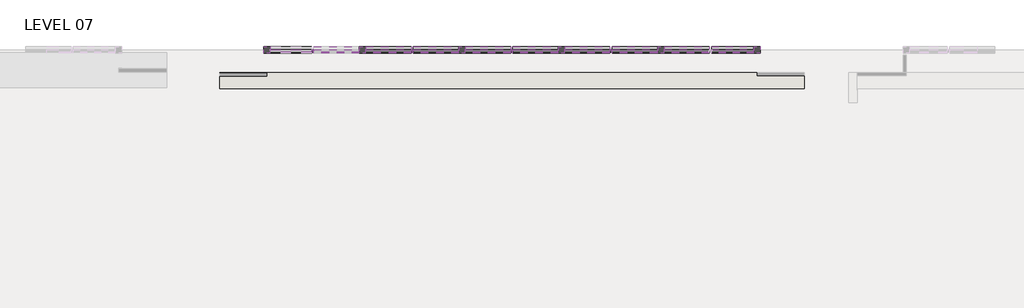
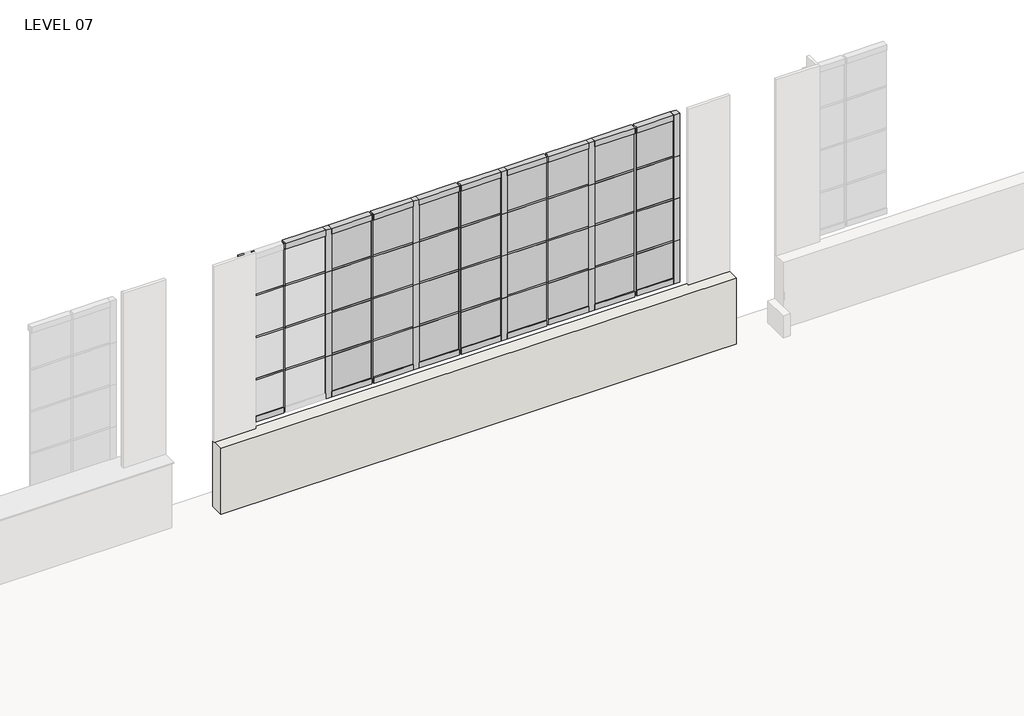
# One storey, part 10 of 15: 88 members, 32 plates, 2 walls.
"""IFC4 building model written with IfcOpenShell, lengths in millimetres."""

from ifc_helpers import new_model, si_unit, frame, origin, place, context, project, spatial, polyline, outline, extrude, transform, mapped, element, save
from components import member_605ff978, member_d9fe2114, member_fd592df6, member_78bb2ef1, member_40290cd5, member_ba51e770, member_6e5aab5d, member_bacafba3, member_a6d649dc, system_panel_glazed_84a10c8e, system_panel_glazed_44697018, system_panel_glazed_99b9b709, system_panel_glazed_bf1454fd

model = new_model("IFC4")

# Units and contexts
model_context = context("Model", 3, world=origin())
ifc_project = project(units=[si_unit("LENGTHUNIT", "METRE", prefix="MILLI")], contexts=[model_context])

# Site, building, storey
site = spatial("IfcSite", under=ifc_project)
building = spatial("IfcBuilding", under=site)
storey = spatial("IfcBuildingStorey", under=building, Name="LEVEL 07", Elevation=20802.6)

# Members
placement = place(None, origin())
member_shape = member_605ff978(model_context)
element("IfcMember", 1, ObjectType="Rectangular Mullion : 1\" x 1\" - Butt Joint", at=placement, inside=storey, context=model_context, shape_type="MappedRepresentation", body=[
    mapped(member_shape, transform((-21405.0571519, -412.75, 23342.6), x_axis=(0.0, 0.0, 1.0), y_axis=(0.0, -1.0, 0.0), z_axis=(1.0, 0.0, 0.0))),
])
element("IfcMember", 2, ObjectType="Rectangular Mullion : 1\" x 1\" - Butt Joint", at=placement, inside=storey, context=model_context, shape_type="MappedRepresentation", body=[
    mapped(member_shape, transform((-21405.0571519, -412.75, 22758.4), x_axis=(0.0, 0.0, 1.0), y_axis=(0.0, -1.0, 0.0), z_axis=(1.0, 0.0, 0.0))),
])
element("IfcMember", 3, ObjectType="Rectangular Mullion : 1\" x 1\" - Butt Joint", at=placement, inside=storey, context=model_context, shape_type="MappedRepresentation", body=[
    mapped(member_shape, transform((-21405.0571519, -412.75, 22174.2), x_axis=(0.0, 0.0, 1.0), y_axis=(0.0, -1.0, 0.0), z_axis=(1.0, 0.0, 0.0))),
])
member_2_shape = member_d9fe2114(model_context)
element("IfcMember", 4, ObjectType="Rectangular Mullion : 1\" x 1\" - Butt Joint", at=placement, inside=storey, context=model_context, shape_type="MappedRepresentation", body=[
    mapped(member_2_shape, transform((-20856.4171519, -412.75, 23342.6), x_axis=(0.0, 0.0, 1.0), y_axis=(0.0, -1.0, 0.0), z_axis=(1.0, 0.0, 0.0))),
])
element("IfcMember", 5, ObjectType="Rectangular Mullion : 1\" x 1\" - Butt Joint", at=placement, inside=storey, context=model_context, shape_type="MappedRepresentation", body=[
    mapped(member_2_shape, transform((-19708.3371519, -412.75, 23342.6), x_axis=(0.0, 0.0, 1.0), y_axis=(0.0, -1.0, 0.0), z_axis=(1.0, 0.0, 0.0))),
])
element("IfcMember", 6, ObjectType="Rectangular Mullion : 1\" x 1\" - Butt Joint", at=placement, inside=storey, context=model_context, shape_type="MappedRepresentation", body=[
    mapped(member_2_shape, transform((-18560.2571519, -412.75, 23342.6), x_axis=(0.0, 0.0, 1.0), y_axis=(0.0, -1.0, 0.0), z_axis=(1.0, 0.0, 0.0))),
])
element("IfcMember", 7, ObjectType="Rectangular Mullion : 1\" x 1\" - Butt Joint", at=placement, inside=storey, context=model_context, shape_type="MappedRepresentation", body=[
    mapped(member_2_shape, transform((-17412.1771519, -412.75, 23342.6), x_axis=(0.0, 0.0, 1.0), y_axis=(0.0, -1.0, 0.0), z_axis=(1.0, 0.0, 0.0))),
])
element("IfcMember", 8, ObjectType="Rectangular Mullion : 1\" x 1\" - Butt Joint", at=placement, inside=storey, context=model_context, shape_type="MappedRepresentation", body=[
    mapped(member_2_shape, transform((-20256.9771519, -412.75, 23342.6), x_axis=(0.0, 0.0, 1.0), y_axis=(0.0, -1.0, 0.0), z_axis=(1.0, 0.0, 0.0))),
])
element("IfcMember", 9, ObjectType="Rectangular Mullion : 1\" x 1\" - Butt Joint", at=placement, inside=storey, context=model_context, shape_type="MappedRepresentation", body=[
    mapped(member_2_shape, transform((-19108.8971519, -412.75, 23342.6), x_axis=(0.0, 0.0, 1.0), y_axis=(0.0, -1.0, 0.0), z_axis=(1.0, 0.0, 0.0))),
])
element("IfcMember", 10, ObjectType="Rectangular Mullion : 1\" x 1\" - Butt Joint", at=placement, inside=storey, context=model_context, shape_type="MappedRepresentation", body=[
    mapped(member_2_shape, transform((-17960.8171519, -412.75, 23342.6), x_axis=(0.0, 0.0, 1.0), y_axis=(0.0, -1.0, 0.0), z_axis=(1.0, 0.0, 0.0))),
])
element("IfcMember", 11, ObjectType="Rectangular Mullion : 1\" x 1\" - Butt Joint", at=placement, inside=storey, context=model_context, shape_type="MappedRepresentation", body=[
    mapped(member_2_shape, transform((-16812.7371519, -412.75, 23342.6), x_axis=(0.0, 0.0, 1.0), y_axis=(0.0, -1.0, 0.0), z_axis=(1.0, 0.0, 0.0))),
])
element("IfcMember", 12, ObjectType="Rectangular Mullion : 1\" x 1\" - Butt Joint", at=placement, inside=storey, context=model_context, shape_type="MappedRepresentation", body=[
    mapped(member_2_shape, transform((-20856.4171519, -412.75, 22758.4), x_axis=(0.0, 0.0, 1.0), y_axis=(0.0, -1.0, 0.0), z_axis=(1.0, 0.0, 0.0))),
])
element("IfcMember", 13, ObjectType="Rectangular Mullion : 1\" x 1\" - Butt Joint", at=placement, inside=storey, context=model_context, shape_type="MappedRepresentation", body=[
    mapped(member_2_shape, transform((-19708.3371519, -412.75, 22758.4), x_axis=(0.0, 0.0, 1.0), y_axis=(0.0, -1.0, 0.0), z_axis=(1.0, 0.0, 0.0))),
])
element("IfcMember", 14, ObjectType="Rectangular Mullion : 1\" x 1\" - Butt Joint", at=placement, inside=storey, context=model_context, shape_type="MappedRepresentation", body=[
    mapped(member_2_shape, transform((-18560.2571519, -412.75, 22758.4), x_axis=(0.0, 0.0, 1.0), y_axis=(0.0, -1.0, 0.0), z_axis=(1.0, 0.0, 0.0))),
])
element("IfcMember", 15, ObjectType="Rectangular Mullion : 1\" x 1\" - Butt Joint", at=placement, inside=storey, context=model_context, shape_type="MappedRepresentation", body=[
    mapped(member_2_shape, transform((-17412.1771519, -412.75, 22758.4), x_axis=(0.0, 0.0, 1.0), y_axis=(0.0, -1.0, 0.0), z_axis=(1.0, 0.0, 0.0))),
])
element("IfcMember", 16, ObjectType="Rectangular Mullion : 1\" x 1\" - Butt Joint", at=placement, inside=storey, context=model_context, shape_type="MappedRepresentation", body=[
    mapped(member_2_shape, transform((-20256.9771519, -412.75, 22758.4), x_axis=(0.0, 0.0, 1.0), y_axis=(0.0, -1.0, 0.0), z_axis=(1.0, 0.0, 0.0))),
])
element("IfcMember", 17, ObjectType="Rectangular Mullion : 1\" x 1\" - Butt Joint", at=placement, inside=storey, context=model_context, shape_type="MappedRepresentation", body=[
    mapped(member_2_shape, transform((-19108.8971519, -412.75, 22758.4), x_axis=(0.0, 0.0, 1.0), y_axis=(0.0, -1.0, 0.0), z_axis=(1.0, 0.0, 0.0))),
])
element("IfcMember", 18, ObjectType="Rectangular Mullion : 1\" x 1\" - Butt Joint", at=placement, inside=storey, context=model_context, shape_type="MappedRepresentation", body=[
    mapped(member_2_shape, transform((-17960.8171519, -412.75, 22758.4), x_axis=(0.0, 0.0, 1.0), y_axis=(0.0, -1.0, 0.0), z_axis=(1.0, 0.0, 0.0))),
])
element("IfcMember", 19, ObjectType="Rectangular Mullion : 1\" x 1\" - Butt Joint", at=placement, inside=storey, context=model_context, shape_type="MappedRepresentation", body=[
    mapped(member_2_shape, transform((-16812.7371519, -412.75, 22758.4), x_axis=(0.0, 0.0, 1.0), y_axis=(0.0, -1.0, 0.0), z_axis=(1.0, 0.0, 0.0))),
])
element("IfcMember", 20, ObjectType="Rectangular Mullion : 1\" x 1\" - Butt Joint", at=placement, inside=storey, context=model_context, shape_type="MappedRepresentation", body=[
    mapped(member_2_shape, transform((-20856.4171519, -412.75, 22174.2), x_axis=(0.0, 0.0, 1.0), y_axis=(0.0, -1.0, 0.0), z_axis=(1.0, 0.0, 0.0))),
])
element("IfcMember", 21, ObjectType="Rectangular Mullion : 1\" x 1\" - Butt Joint", at=placement, inside=storey, context=model_context, shape_type="MappedRepresentation", body=[
    mapped(member_2_shape, transform((-19708.3371519, -412.75, 22174.2), x_axis=(0.0, 0.0, 1.0), y_axis=(0.0, -1.0, 0.0), z_axis=(1.0, 0.0, 0.0))),
])
element("IfcMember", 22, ObjectType="Rectangular Mullion : 1\" x 1\" - Butt Joint", at=placement, inside=storey, context=model_context, shape_type="MappedRepresentation", body=[
    mapped(member_2_shape, transform((-18560.2571519, -412.75, 22174.2), x_axis=(0.0, 0.0, 1.0), y_axis=(0.0, -1.0, 0.0), z_axis=(1.0, 0.0, 0.0))),
])
element("IfcMember", 23, ObjectType="Rectangular Mullion : 1\" x 1\" - Butt Joint", at=placement, inside=storey, context=model_context, shape_type="MappedRepresentation", body=[
    mapped(member_2_shape, transform((-17412.1771519, -412.75, 22174.2), x_axis=(0.0, 0.0, 1.0), y_axis=(0.0, -1.0, 0.0), z_axis=(1.0, 0.0, 0.0))),
])
element("IfcMember", 24, ObjectType="Rectangular Mullion : 1\" x 1\" - Butt Joint", at=placement, inside=storey, context=model_context, shape_type="MappedRepresentation", body=[
    mapped(member_2_shape, transform((-20256.9771519, -412.75, 22174.2), x_axis=(0.0, 0.0, 1.0), y_axis=(0.0, -1.0, 0.0), z_axis=(1.0, 0.0, 0.0))),
])
element("IfcMember", 25, ObjectType="Rectangular Mullion : 1\" x 1\" - Butt Joint", at=placement, inside=storey, context=model_context, shape_type="MappedRepresentation", body=[
    mapped(member_2_shape, transform((-19108.8971519, -412.75, 22174.2), x_axis=(0.0, 0.0, 1.0), y_axis=(0.0, -1.0, 0.0), z_axis=(1.0, 0.0, 0.0))),
])
element("IfcMember", 26, ObjectType="Rectangular Mullion : 1\" x 1\" - Butt Joint", at=placement, inside=storey, context=model_context, shape_type="MappedRepresentation", body=[
    mapped(member_2_shape, transform((-17960.8171519, -412.75, 22174.2), x_axis=(0.0, 0.0, 1.0), y_axis=(0.0, -1.0, 0.0), z_axis=(1.0, 0.0, 0.0))),
])
element("IfcMember", 27, ObjectType="Rectangular Mullion : 1\" x 1\" - Butt Joint", at=placement, inside=storey, context=model_context, shape_type="MappedRepresentation", body=[
    mapped(member_2_shape, transform((-16812.7371519, -412.75, 22174.2), x_axis=(0.0, 0.0, 1.0), y_axis=(0.0, -1.0, 0.0), z_axis=(1.0, 0.0, 0.0))),
])
member_3_shape = member_fd592df6(model_context)
element("IfcMember", 28, ObjectType="Rectangular Mullion : 1\" x 1\" - Butt Joint", at=placement, inside=storey, context=model_context, shape_type="MappedRepresentation", body=[
    mapped(member_3_shape, transform((-16302.1971519, -412.75, 23342.6), x_axis=(0.0, 0.0, 1.0), y_axis=(0.0, -1.0, 0.0), z_axis=(1.0, 0.0, 0.0))),
])
element("IfcMember", 29, ObjectType="Rectangular Mullion : 1\" x 1\" - Butt Joint", at=placement, inside=storey, context=model_context, shape_type="MappedRepresentation", body=[
    mapped(member_3_shape, transform((-16302.1971519, -412.75, 22758.4), x_axis=(0.0, 0.0, 1.0), y_axis=(0.0, -1.0, 0.0), z_axis=(1.0, 0.0, 0.0))),
])
element("IfcMember", 30, ObjectType="Rectangular Mullion : 1\" x 1\" - Butt Joint", at=placement, inside=storey, context=model_context, shape_type="MappedRepresentation", body=[
    mapped(member_3_shape, transform((-16302.1971519, -412.75, 22174.2), x_axis=(0.0, 0.0, 1.0), y_axis=(0.0, -1.0, 0.0), z_axis=(1.0, 0.0, 0.0))),
])
member_4_shape = member_78bb2ef1(model_context)
element("IfcMember", 31, ObjectType="Rectangular Mullion : 1\" x 1\" - Butt Joint", at=placement, inside=storey, context=model_context, shape_type="MappedRepresentation", body=[
    mapped(member_4_shape, transform((-17948.1171519, -412.75, 23342.6), x_axis=(1.0, 0.0, 0.0), y_axis=(0.0, -1.0, 0.0), z_axis=(0.0, 0.0, -1.0))),
])
element("IfcMember", 32, ObjectType="Rectangular Mullion : 1\" x 1\" - Butt Joint", at=placement, inside=storey, context=model_context, shape_type="MappedRepresentation", body=[
    mapped(member_4_shape, transform((-19096.1971519, -412.75, 23342.6), x_axis=(1.0, 0.0, 0.0), y_axis=(0.0, -1.0, 0.0), z_axis=(0.0, 0.0, -1.0))),
])
element("IfcMember", 33, ObjectType="Rectangular Mullion : 1\" x 1\" - Butt Joint", at=placement, inside=storey, context=model_context, shape_type="MappedRepresentation", body=[
    mapped(member_4_shape, transform((-20244.2771519, -412.75, 23342.6), x_axis=(1.0, 0.0, 0.0), y_axis=(0.0, -1.0, 0.0), z_axis=(0.0, 0.0, -1.0))),
])
element("IfcMember", 34, ObjectType="Rectangular Mullion : 1\" x 1\" - Butt Joint", at=placement, inside=storey, context=model_context, shape_type="MappedRepresentation", body=[
    mapped(member_4_shape, transform((-21392.3571519, -412.75, 23342.6), x_axis=(1.0, 0.0, 0.0), y_axis=(0.0, -1.0, 0.0), z_axis=(0.0, 0.0, -1.0))),
])
element("IfcMember", 35, ObjectType="Rectangular Mullion : 1\" x 1\" - Butt Joint", at=placement, inside=storey, context=model_context, shape_type="MappedRepresentation", body=[
    mapped(member_4_shape, transform((-17948.1171519, -412.75, 22174.2), x_axis=(1.0, 0.0, 0.0), y_axis=(0.0, -1.0, 0.0), z_axis=(0.0, 0.0, -1.0))),
])
element("IfcMember", 36, ObjectType="Rectangular Mullion : 1\" x 1\" - Butt Joint", at=placement, inside=storey, context=model_context, shape_type="MappedRepresentation", body=[
    mapped(member_4_shape, transform((-17948.1171519, -412.75, 22758.4), x_axis=(1.0, 0.0, 0.0), y_axis=(0.0, -1.0, 0.0), z_axis=(0.0, 0.0, -1.0))),
])
element("IfcMember", 37, ObjectType="Rectangular Mullion : 1\" x 1\" - Butt Joint", at=placement, inside=storey, context=model_context, shape_type="MappedRepresentation", body=[
    mapped(member_4_shape, transform((-19096.1971519, -412.75, 22174.2), x_axis=(1.0, 0.0, 0.0), y_axis=(0.0, -1.0, 0.0), z_axis=(0.0, 0.0, -1.0))),
])
element("IfcMember", 38, ObjectType="Rectangular Mullion : 1\" x 1\" - Butt Joint", at=placement, inside=storey, context=model_context, shape_type="MappedRepresentation", body=[
    mapped(member_4_shape, transform((-19096.1971519, -412.75, 22758.4), x_axis=(1.0, 0.0, 0.0), y_axis=(0.0, -1.0, 0.0), z_axis=(0.0, 0.0, -1.0))),
])
element("IfcMember", 39, ObjectType="Rectangular Mullion : 1\" x 1\" - Butt Joint", at=placement, inside=storey, context=model_context, shape_type="MappedRepresentation", body=[
    mapped(member_4_shape, transform((-20244.2771519, -412.75, 22174.2), x_axis=(1.0, 0.0, 0.0), y_axis=(0.0, -1.0, 0.0), z_axis=(0.0, 0.0, -1.0))),
])
element("IfcMember", 40, ObjectType="Rectangular Mullion : 1\" x 1\" - Butt Joint", at=placement, inside=storey, context=model_context, shape_type="MappedRepresentation", body=[
    mapped(member_4_shape, transform((-20244.2771519, -412.75, 22758.4), x_axis=(1.0, 0.0, 0.0), y_axis=(0.0, -1.0, 0.0), z_axis=(0.0, 0.0, -1.0))),
])
element("IfcMember", 41, ObjectType="Rectangular Mullion : 1\" x 1\" - Butt Joint", at=placement, inside=storey, context=model_context, shape_type="MappedRepresentation", body=[
    mapped(member_4_shape, transform((-21392.3571519, -412.75, 22174.2), x_axis=(1.0, 0.0, 0.0), y_axis=(0.0, -1.0, 0.0), z_axis=(0.0, 0.0, -1.0))),
])
element("IfcMember", 42, ObjectType="Rectangular Mullion : 1\" x 1\" - Butt Joint", at=placement, inside=storey, context=model_context, shape_type="MappedRepresentation", body=[
    mapped(member_4_shape, transform((-21392.3571519, -412.75, 22758.4), x_axis=(1.0, 0.0, 0.0), y_axis=(0.0, -1.0, 0.0), z_axis=(0.0, 0.0, -1.0))),
])
element("IfcMember", 43, ObjectType="Rectangular Mullion : 1\" x 1\" - Butt Joint", at=placement, inside=storey, context=model_context, shape_type="MappedRepresentation", body=[
    mapped(member_4_shape, transform((-17948.1171519, -412.75, 21590.0), x_axis=(1.0, 0.0, 0.0), y_axis=(0.0, -1.0, 0.0), z_axis=(0.0, 0.0, -1.0))),
])
element("IfcMember", 44, ObjectType="Rectangular Mullion : 1\" x 1\" - Butt Joint", at=placement, inside=storey, context=model_context, shape_type="MappedRepresentation", body=[
    mapped(member_4_shape, transform((-19096.1971519, -412.75, 21590.0), x_axis=(1.0, 0.0, 0.0), y_axis=(0.0, -1.0, 0.0), z_axis=(0.0, 0.0, -1.0))),
])
element("IfcMember", 45, ObjectType="Rectangular Mullion : 1\" x 1\" - Butt Joint", at=placement, inside=storey, context=model_context, shape_type="MappedRepresentation", body=[
    mapped(member_4_shape, transform((-20244.2771519, -412.75, 21590.0), x_axis=(1.0, 0.0, 0.0), y_axis=(0.0, -1.0, 0.0), z_axis=(0.0, 0.0, -1.0))),
])
element("IfcMember", 46, ObjectType="Rectangular Mullion : 1\" x 1\" - Butt Joint", at=placement, inside=storey, context=model_context, shape_type="MappedRepresentation", body=[
    mapped(member_4_shape, transform((-21392.3571519, -412.75, 21590.0), x_axis=(1.0, 0.0, 0.0), y_axis=(0.0, -1.0, 0.0), z_axis=(0.0, 0.0, -1.0))),
])
member_5_shape = member_40290cd5(model_context)
element("IfcMember", 47, ObjectType="Rectangular Mullion : 3\" x 3\" Window Jamb", at=placement, inside=storey, context=model_context, shape_type="MappedRepresentation", body=[
    mapped(member_5_shape, transform((-21885.7412013, -412.75, 21590.0), x_axis=(0.0, 0.0, -1.0), y_axis=(0.0, -1.0, 0.0), z_axis=(-1.0, 0.0, 0.0))),
])
member_6_shape = member_ba51e770(model_context)
element("IfcMember", 48, ObjectType="Rectangular Mullion : 3\" x 3\" Window Jamb", at=placement, inside=storey, context=model_context, shape_type="MappedRepresentation", body=[
    mapped(member_6_shape, transform((-16302.1971519, -412.75, 23926.8), x_axis=(0.0, 0.0, 1.0), y_axis=(0.0, -1.0, 0.0), z_axis=(1.0, 0.0, 0.0))),
])
member_7_shape = member_6e5aab5d(model_context)
element("IfcMember", 49, ObjectType="Rectangular Mullion : 3\" x 3\" Window Jamb", at=placement, inside=storey, context=model_context, shape_type="MappedRepresentation", body=[
    mapped(member_7_shape, transform((-20256.9771519, -412.75, 23926.8), x_axis=(0.0, 0.0, 1.0), y_axis=(0.0, -1.0, 0.0), z_axis=(1.0, 0.0, 0.0))),
])
element("IfcMember", 50, ObjectType="Rectangular Mullion : 3\" x 3\" Window Jamb", at=placement, inside=storey, context=model_context, shape_type="MappedRepresentation", body=[
    mapped(member_7_shape, transform((-19108.8971519, -412.75, 23926.8), x_axis=(0.0, 0.0, 1.0), y_axis=(0.0, -1.0, 0.0), z_axis=(1.0, 0.0, 0.0))),
])
element("IfcMember", 51, ObjectType="Rectangular Mullion : 3\" x 3\" Window Jamb", at=placement, inside=storey, context=model_context, shape_type="MappedRepresentation", body=[
    mapped(member_7_shape, transform((-17960.8171519, -412.75, 23926.8), x_axis=(0.0, 0.0, 1.0), y_axis=(0.0, -1.0, 0.0), z_axis=(1.0, 0.0, 0.0))),
])
element("IfcMember", 52, ObjectType="Rectangular Mullion : 3\" x 3\" Window Jamb", at=placement, inside=storey, context=model_context, shape_type="MappedRepresentation", body=[
    mapped(member_7_shape, transform((-16812.7371519, -412.75, 23926.8), x_axis=(0.0, 0.0, 1.0), y_axis=(0.0, -1.0, 0.0), z_axis=(1.0, 0.0, 0.0))),
])
element("IfcMember", 53, ObjectType="Rectangular Mullion : 3\" x 3\" Window Jamb", at=placement, inside=storey, context=model_context, shape_type="MappedRepresentation", body=[
    mapped(member_7_shape, transform((-20856.4171519, -412.75, 23926.8), x_axis=(0.0, 0.0, 1.0), y_axis=(0.0, -1.0, 0.0), z_axis=(1.0, 0.0, 0.0))),
])
element("IfcMember", 54, ObjectType="Rectangular Mullion : 3\" x 3\" Window Jamb", at=placement, inside=storey, context=model_context, shape_type="MappedRepresentation", body=[
    mapped(member_7_shape, transform((-19708.3371519, -412.75, 23926.8), x_axis=(0.0, 0.0, 1.0), y_axis=(0.0, -1.0, 0.0), z_axis=(1.0, 0.0, 0.0))),
])
element("IfcMember", 55, ObjectType="Rectangular Mullion : 3\" x 3\" Window Jamb", at=placement, inside=storey, context=model_context, shape_type="MappedRepresentation", body=[
    mapped(member_7_shape, transform((-18560.2571519, -412.75, 23926.8), x_axis=(0.0, 0.0, 1.0), y_axis=(0.0, -1.0, 0.0), z_axis=(1.0, 0.0, 0.0))),
])
element("IfcMember", 56, ObjectType="Rectangular Mullion : 3\" x 3\" Window Jamb", at=placement, inside=storey, context=model_context, shape_type="MappedRepresentation", body=[
    mapped(member_7_shape, transform((-17412.1771519, -412.75, 23926.8), x_axis=(0.0, 0.0, 1.0), y_axis=(0.0, -1.0, 0.0), z_axis=(1.0, 0.0, 0.0))),
])
element("IfcMember", 57, ObjectType="Rectangular Mullion : 3\" x 3\" Window Jamb", at=placement, inside=storey, context=model_context, shape_type="MappedRepresentation", body=[
    mapped(member_7_shape, transform((-20231.5771519, -412.75, 21590.0), x_axis=(0.0, 0.0, -1.0), y_axis=(0.0, -1.0, 0.0), z_axis=(-1.0, 0.0, 0.0))),
])
element("IfcMember", 58, ObjectType="Rectangular Mullion : 3\" x 3\" Window Jamb", at=placement, inside=storey, context=model_context, shape_type="MappedRepresentation", body=[
    mapped(member_7_shape, transform((-19083.4971519, -412.75, 21590.0), x_axis=(0.0, 0.0, -1.0), y_axis=(0.0, -1.0, 0.0), z_axis=(-1.0, 0.0, 0.0))),
])
element("IfcMember", 59, ObjectType="Rectangular Mullion : 3\" x 3\" Window Jamb", at=placement, inside=storey, context=model_context, shape_type="MappedRepresentation", body=[
    mapped(member_7_shape, transform((-17935.4171519, -412.75, 21590.0), x_axis=(0.0, 0.0, -1.0), y_axis=(0.0, -1.0, 0.0), z_axis=(-1.0, 0.0, 0.0))),
])
element("IfcMember", 60, ObjectType="Rectangular Mullion : 3\" x 3\" Window Jamb", at=placement, inside=storey, context=model_context, shape_type="MappedRepresentation", body=[
    mapped(member_7_shape, transform((-20780.2171519, -412.75, 21590.0), x_axis=(0.0, 0.0, -1.0), y_axis=(0.0, -1.0, 0.0), z_axis=(-1.0, 0.0, 0.0))),
])
element("IfcMember", 61, ObjectType="Rectangular Mullion : 3\" x 3\" Window Jamb", at=placement, inside=storey, context=model_context, shape_type="MappedRepresentation", body=[
    mapped(member_7_shape, transform((-19632.1371519, -412.75, 21590.0), x_axis=(0.0, 0.0, -1.0), y_axis=(0.0, -1.0, 0.0), z_axis=(-1.0, 0.0, 0.0))),
])
element("IfcMember", 62, ObjectType="Rectangular Mullion : 3\" x 3\" Window Jamb", at=placement, inside=storey, context=model_context, shape_type="MappedRepresentation", body=[
    mapped(member_7_shape, transform((-18484.0571519, -412.75, 21590.0), x_axis=(0.0, 0.0, -1.0), y_axis=(0.0, -1.0, 0.0), z_axis=(-1.0, 0.0, 0.0))),
])
element("IfcMember", 63, ObjectType="Rectangular Mullion : 3\" x 3\" Window Jamb", at=placement, inside=storey, context=model_context, shape_type="MappedRepresentation", body=[
    mapped(member_7_shape, transform((-17335.9771519, -412.75, 21590.0), x_axis=(0.0, 0.0, -1.0), y_axis=(0.0, -1.0, 0.0), z_axis=(-1.0, 0.0, 0.0))),
])
element("IfcMember", 64, ObjectType="Rectangular Mullion : 3\" x 3\" Window Jamb", at=placement, inside=storey, context=model_context, shape_type="MappedRepresentation", body=[
    mapped(member_6_shape, transform((-16787.3371519, -412.75, 21590.0), x_axis=(0.0, 0.0, -1.0), y_axis=(0.0, -1.0, 0.0), z_axis=(-1.0, 0.0, 0.0))),
])
member_8_shape = member_bacafba3(model_context)
element("IfcMember", 65, ObjectType="Rectangular Mullion : 3\" x 3\" Window Jamb", at=placement, inside=storey, context=model_context, shape_type="MappedRepresentation", body=[
    mapped(member_8_shape, transform((-17374.0771519, -412.75, 23342.6), x_axis=(1.0, 0.0, 0.0), y_axis=(0.0, -1.0, 0.0), z_axis=(0.0, 0.0, -1.0))),
])
element("IfcMember", 66, ObjectType="Rectangular Mullion : 3\" x 3\" Window Jamb", at=placement, inside=storey, context=model_context, shape_type="MappedRepresentation", body=[
    mapped(member_8_shape, transform((-18522.1571519, -412.75, 23342.6), x_axis=(1.0, 0.0, 0.0), y_axis=(0.0, -1.0, 0.0), z_axis=(0.0, 0.0, -1.0))),
])
element("IfcMember", 67, ObjectType="Rectangular Mullion : 3\" x 3\" Window Jamb", at=placement, inside=storey, context=model_context, shape_type="MappedRepresentation", body=[
    mapped(member_8_shape, transform((-19670.2371519, -412.75, 23342.6), x_axis=(1.0, 0.0, 0.0), y_axis=(0.0, -1.0, 0.0), z_axis=(0.0, 0.0, -1.0))),
])
element("IfcMember", 68, ObjectType="Rectangular Mullion : 3\" x 3\" Window Jamb", at=placement, inside=storey, context=model_context, shape_type="MappedRepresentation", body=[
    mapped(member_8_shape, transform((-20818.3171519, -412.75, 23342.6), x_axis=(1.0, 0.0, 0.0), y_axis=(0.0, -1.0, 0.0), z_axis=(0.0, 0.0, -1.0))),
])
element("IfcMember", 69, ObjectType="Rectangular Mullion : 3\" x 3\" Window Jamb", at=placement, inside=storey, context=model_context, shape_type="MappedRepresentation", body=[
    mapped(member_8_shape, transform((-17374.0771519, -412.75, 22174.2), x_axis=(1.0, 0.0, 0.0), y_axis=(0.0, -1.0, 0.0), z_axis=(0.0, 0.0, -1.0))),
])
element("IfcMember", 70, ObjectType="Rectangular Mullion : 3\" x 3\" Window Jamb", at=placement, inside=storey, context=model_context, shape_type="MappedRepresentation", body=[
    mapped(member_8_shape, transform((-17374.0771519, -412.75, 22758.4), x_axis=(1.0, 0.0, 0.0), y_axis=(0.0, -1.0, 0.0), z_axis=(0.0, 0.0, -1.0))),
])
element("IfcMember", 71, ObjectType="Rectangular Mullion : 3\" x 3\" Window Jamb", at=placement, inside=storey, context=model_context, shape_type="MappedRepresentation", body=[
    mapped(member_8_shape, transform((-18522.1571519, -412.75, 22174.2), x_axis=(1.0, 0.0, 0.0), y_axis=(0.0, -1.0, 0.0), z_axis=(0.0, 0.0, -1.0))),
])
element("IfcMember", 72, ObjectType="Rectangular Mullion : 3\" x 3\" Window Jamb", at=placement, inside=storey, context=model_context, shape_type="MappedRepresentation", body=[
    mapped(member_8_shape, transform((-18522.1571519, -412.75, 22758.4), x_axis=(1.0, 0.0, 0.0), y_axis=(0.0, -1.0, 0.0), z_axis=(0.0, 0.0, -1.0))),
])
element("IfcMember", 73, ObjectType="Rectangular Mullion : 3\" x 3\" Window Jamb", at=placement, inside=storey, context=model_context, shape_type="MappedRepresentation", body=[
    mapped(member_8_shape, transform((-19670.2371519, -412.75, 22174.2), x_axis=(1.0, 0.0, 0.0), y_axis=(0.0, -1.0, 0.0), z_axis=(0.0, 0.0, -1.0))),
])
element("IfcMember", 74, ObjectType="Rectangular Mullion : 3\" x 3\" Window Jamb", at=placement, inside=storey, context=model_context, shape_type="MappedRepresentation", body=[
    mapped(member_8_shape, transform((-19670.2371519, -412.75, 22758.4), x_axis=(1.0, 0.0, 0.0), y_axis=(0.0, -1.0, 0.0), z_axis=(0.0, 0.0, -1.0))),
])
element("IfcMember", 75, ObjectType="Rectangular Mullion : 3\" x 3\" Window Jamb", at=placement, inside=storey, context=model_context, shape_type="MappedRepresentation", body=[
    mapped(member_8_shape, transform((-20818.3171519, -412.75, 22174.2), x_axis=(1.0, 0.0, 0.0), y_axis=(0.0, -1.0, 0.0), z_axis=(0.0, 0.0, -1.0))),
])
element("IfcMember", 76, ObjectType="Rectangular Mullion : 3\" x 3\" Window Jamb", at=placement, inside=storey, context=model_context, shape_type="MappedRepresentation", body=[
    mapped(member_8_shape, transform((-20818.3171519, -412.75, 22758.4), x_axis=(1.0, 0.0, 0.0), y_axis=(0.0, -1.0, 0.0), z_axis=(0.0, 0.0, -1.0))),
])
element("IfcMember", 77, ObjectType="Rectangular Mullion : 3\" x 3\" Window Jamb", at=placement, inside=storey, context=model_context, shape_type="MappedRepresentation", body=[
    mapped(member_8_shape, transform((-17374.0771519, -412.75, 21590.0), x_axis=(1.0, 0.0, 0.0), y_axis=(0.0, -1.0, 0.0), z_axis=(0.0, 0.0, -1.0))),
])
element("IfcMember", 78, ObjectType="Rectangular Mullion : 3\" x 3\" Window Jamb", at=placement, inside=storey, context=model_context, shape_type="MappedRepresentation", body=[
    mapped(member_8_shape, transform((-18522.1571519, -412.75, 21590.0), x_axis=(1.0, 0.0, 0.0), y_axis=(0.0, -1.0, 0.0), z_axis=(0.0, 0.0, -1.0))),
])
element("IfcMember", 79, ObjectType="Rectangular Mullion : 3\" x 3\" Window Jamb", at=placement, inside=storey, context=model_context, shape_type="MappedRepresentation", body=[
    mapped(member_8_shape, transform((-19670.2371519, -412.75, 21590.0), x_axis=(1.0, 0.0, 0.0), y_axis=(0.0, -1.0, 0.0), z_axis=(0.0, 0.0, -1.0))),
])
element("IfcMember", 80, ObjectType="Rectangular Mullion : 3\" x 3\" Window Jamb", at=placement, inside=storey, context=model_context, shape_type="MappedRepresentation", body=[
    mapped(member_8_shape, transform((-20818.3171519, -412.75, 21590.0), x_axis=(1.0, 0.0, 0.0), y_axis=(0.0, -1.0, 0.0), z_axis=(0.0, 0.0, -1.0))),
])
member_9_shape = member_a6d649dc(model_context)
element("IfcMember", 81, ObjectType="Rectangular Mullion : 3\" x 3\" Window Jamb", at=placement, inside=storey, context=model_context, shape_type="MappedRepresentation", body=[
    mapped(member_9_shape, transform((-16225.9971519, -412.75, 23342.6), x_axis=(1.0, 0.0, 0.0), y_axis=(0.0, -1.0, 0.0), z_axis=(0.0, 0.0, -1.0))),
])
element("IfcMember", 82, ObjectType="Rectangular Mullion : 3\" x 3\" Window Jamb", at=placement, inside=storey, context=model_context, shape_type="MappedRepresentation", body=[
    mapped(member_9_shape, transform((-16225.9971519, -412.75, 22174.2), x_axis=(1.0, 0.0, 0.0), y_axis=(0.0, -1.0, 0.0), z_axis=(0.0, 0.0, -1.0))),
])
element("IfcMember", 83, ObjectType="Rectangular Mullion : 3\" x 3\" Window Jamb", at=placement, inside=storey, context=model_context, shape_type="MappedRepresentation", body=[
    mapped(member_9_shape, transform((-16225.9971519, -412.75, 22758.4), x_axis=(1.0, 0.0, 0.0), y_axis=(0.0, -1.0, 0.0), z_axis=(0.0, 0.0, -1.0))),
])
element("IfcMember", 84, ObjectType="Rectangular Mullion : 3\" x 3\" Window Jamb", at=placement, inside=storey, context=model_context, shape_type="MappedRepresentation", body=[
    mapped(member_9_shape, transform((-16225.9971519, -412.75, 21590.0), x_axis=(1.0, 0.0, 0.0), y_axis=(0.0, -1.0, 0.0), z_axis=(0.0, 0.0, -1.0))),
])
element("IfcMember", 85, ObjectType="Rectangular Mullion : 3\" x 3\" Window Jamb", at=placement, inside=storey, context=model_context, shape_type="MappedRepresentation", body=[
    mapped(member_9_shape, transform((-21961.9412013, -412.75, 23342.6), x_axis=(-1.0, 0.0, 0.0), y_axis=(0.0, -1.0, 0.0), z_axis=(0.0, 0.0, 1.0))),
])
element("IfcMember", 86, ObjectType="Rectangular Mullion : 3\" x 3\" Window Jamb", at=placement, inside=storey, context=model_context, shape_type="MappedRepresentation", body=[
    mapped(member_9_shape, transform((-21961.9412013, -412.75, 22758.4), x_axis=(-1.0, 0.0, 0.0), y_axis=(0.0, -1.0, 0.0), z_axis=(0.0, 0.0, 1.0))),
])
element("IfcMember", 87, ObjectType="Rectangular Mullion : 3\" x 3\" Window Jamb", at=placement, inside=storey, context=model_context, shape_type="MappedRepresentation", body=[
    mapped(member_9_shape, transform((-21961.9412013, -412.75, 22174.2), x_axis=(-1.0, 0.0, 0.0), y_axis=(0.0, -1.0, 0.0), z_axis=(0.0, 0.0, 1.0))),
])
element("IfcMember", 88, ObjectType="Rectangular Mullion : 3\" x 3\" Window Jamb", at=placement, inside=storey, context=model_context, shape_type="MappedRepresentation", body=[
    mapped(member_9_shape, transform((-21961.9412013, -412.75, 23926.8), x_axis=(-1.0, 0.0, 0.0), y_axis=(0.0, -1.0, 0.0), z_axis=(0.0, 0.0, 1.0))),
])

# Plates
system_panel_glazed_shape = system_panel_glazed_84a10c8e(model_context)
element("IfcPlate", 89, ObjectType="System Panel : Glazed", at=placement, inside=storey, context=model_context, shape_type="MappedRepresentation", body=[
    mapped(system_panel_glazed_shape, transform((-16544.7671519, -412.75, 21666.2), x_axis=(1.0, 0.0, 0.0), y_axis=(0.0, 1.0, 0.0), z_axis=(0.0, 0.0, 1.0))),
])
element("IfcPlate", 90, ObjectType="System Panel : Glazed", at=placement, inside=storey, context=model_context, shape_type="MappedRepresentation", body=[
    mapped(system_panel_glazed_shape, transform((-16544.7671519, -412.75, 23355.3), x_axis=(1.0, 0.0, 0.0), y_axis=(0.0, 1.0, 0.0), z_axis=(0.0, 0.0, 1.0))),
])
system_panel_glazed_2_shape = system_panel_glazed_44697018(model_context)
element("IfcPlate", 91, ObjectType="System Panel : Glazed", at=placement, inside=storey, context=model_context, shape_type="MappedRepresentation", body=[
    mapped(system_panel_glazed_2_shape, transform((-17074.3571519, -412.75, 21666.2), x_axis=(1.0, 0.0, 0.0), y_axis=(0.0, 1.0, 0.0), z_axis=(0.0, 0.0, 1.0))),
])
element("IfcPlate", 92, ObjectType="System Panel : Glazed", at=placement, inside=storey, context=model_context, shape_type="MappedRepresentation", body=[
    mapped(system_panel_glazed_2_shape, transform((-18222.4371519, -412.75, 21666.2), x_axis=(1.0, 0.0, 0.0), y_axis=(0.0, 1.0, 0.0), z_axis=(0.0, 0.0, 1.0))),
])
element("IfcPlate", 93, ObjectType="System Panel : Glazed", at=placement, inside=storey, context=model_context, shape_type="MappedRepresentation", body=[
    mapped(system_panel_glazed_2_shape, transform((-19370.5171519, -412.75, 21666.2), x_axis=(1.0, 0.0, 0.0), y_axis=(0.0, 1.0, 0.0), z_axis=(0.0, 0.0, 1.0))),
])
element("IfcPlate", 94, ObjectType="System Panel : Glazed", at=placement, inside=storey, context=model_context, shape_type="MappedRepresentation", body=[
    mapped(system_panel_glazed_2_shape, transform((-20518.5971519, -412.75, 21666.2), x_axis=(1.0, 0.0, 0.0), y_axis=(0.0, 1.0, 0.0), z_axis=(0.0, 0.0, 1.0))),
])
element("IfcPlate", 95, ObjectType="System Panel : Glazed", at=placement, inside=storey, context=model_context, shape_type="MappedRepresentation", body=[
    mapped(system_panel_glazed_2_shape, transform((-20518.5971519, -412.75, 23355.3), x_axis=(1.0, 0.0, 0.0), y_axis=(0.0, 1.0, 0.0), z_axis=(0.0, 0.0, 1.0))),
])
element("IfcPlate", 96, ObjectType="System Panel : Glazed", at=placement, inside=storey, context=model_context, shape_type="MappedRepresentation", body=[
    mapped(system_panel_glazed_2_shape, transform((-19370.5171519, -412.75, 23355.3), x_axis=(1.0, 0.0, 0.0), y_axis=(0.0, 1.0, 0.0), z_axis=(0.0, 0.0, 1.0))),
])
element("IfcPlate", 97, ObjectType="System Panel : Glazed", at=placement, inside=storey, context=model_context, shape_type="MappedRepresentation", body=[
    mapped(system_panel_glazed_2_shape, transform((-18222.4371519, -412.75, 23355.3), x_axis=(1.0, 0.0, 0.0), y_axis=(0.0, 1.0, 0.0), z_axis=(0.0, 0.0, 1.0))),
])
element("IfcPlate", 98, ObjectType="System Panel : Glazed", at=placement, inside=storey, context=model_context, shape_type="MappedRepresentation", body=[
    mapped(system_panel_glazed_2_shape, transform((-17074.3571519, -412.75, 23355.3), x_axis=(1.0, 0.0, 0.0), y_axis=(0.0, 1.0, 0.0), z_axis=(0.0, 0.0, 1.0))),
])
element("IfcPlate", 99, ObjectType="System Panel : Glazed", at=placement, inside=storey, context=model_context, shape_type="MappedRepresentation", body=[
    mapped(system_panel_glazed_2_shape, transform((-17673.7971519, -412.75, 21666.2), x_axis=(1.0, 0.0, 0.0), y_axis=(0.0, 1.0, 0.0), z_axis=(0.0, 0.0, 1.0))),
])
element("IfcPlate", 100, ObjectType="System Panel : Glazed", at=placement, inside=storey, context=model_context, shape_type="MappedRepresentation", body=[
    mapped(system_panel_glazed_2_shape, transform((-17673.7971519, -412.75, 23355.3), x_axis=(1.0, 0.0, 0.0), y_axis=(0.0, 1.0, 0.0), z_axis=(0.0, 0.0, 1.0))),
])
element("IfcPlate", 101, ObjectType="System Panel : Glazed", at=placement, inside=storey, context=model_context, shape_type="MappedRepresentation", body=[
    mapped(system_panel_glazed_2_shape, transform((-18821.8771519, -412.75, 21666.2), x_axis=(1.0, 0.0, 0.0), y_axis=(0.0, 1.0, 0.0), z_axis=(0.0, 0.0, 1.0))),
])
element("IfcPlate", 102, ObjectType="System Panel : Glazed", at=placement, inside=storey, context=model_context, shape_type="MappedRepresentation", body=[
    mapped(system_panel_glazed_2_shape, transform((-18821.8771519, -412.75, 23355.3), x_axis=(1.0, 0.0, 0.0), y_axis=(0.0, 1.0, 0.0), z_axis=(0.0, 0.0, 1.0))),
])
element("IfcPlate", 103, ObjectType="System Panel : Glazed", at=placement, inside=storey, context=model_context, shape_type="MappedRepresentation", body=[
    mapped(system_panel_glazed_2_shape, transform((-19969.9571519, -412.75, 21666.2), x_axis=(1.0, 0.0, 0.0), y_axis=(0.0, 1.0, 0.0), z_axis=(0.0, 0.0, 1.0))),
])
element("IfcPlate", 104, ObjectType="System Panel : Glazed", at=placement, inside=storey, context=model_context, shape_type="MappedRepresentation", body=[
    mapped(system_panel_glazed_2_shape, transform((-19969.9571519, -412.75, 23355.3), x_axis=(1.0, 0.0, 0.0), y_axis=(0.0, 1.0, 0.0), z_axis=(0.0, 0.0, 1.0))),
])
system_panel_glazed_3_shape = system_panel_glazed_99b9b709(model_context)
element("IfcPlate", 105, ObjectType="System Panel : Glazed", at=placement, inside=storey, context=model_context, shape_type="MappedRepresentation", body=[
    mapped(system_panel_glazed_3_shape, transform((-16544.7671519, -412.75, 22186.9), x_axis=(1.0, 0.0, 0.0), y_axis=(0.0, 1.0, 0.0), z_axis=(0.0, 0.0, 1.0))),
])
element("IfcPlate", 106, ObjectType="System Panel : Glazed", at=placement, inside=storey, context=model_context, shape_type="MappedRepresentation", body=[
    mapped(system_panel_glazed_3_shape, transform((-16544.7671519, -412.75, 22771.1), x_axis=(1.0, 0.0, 0.0), y_axis=(0.0, 1.0, 0.0), z_axis=(0.0, 0.0, 1.0))),
])
system_panel_glazed_4_shape = system_panel_glazed_bf1454fd(model_context)
element("IfcPlate", 107, ObjectType="System Panel : Glazed", at=placement, inside=storey, context=model_context, shape_type="MappedRepresentation", body=[
    mapped(system_panel_glazed_4_shape, transform((-20518.5971519, -412.75, 22771.1), x_axis=(1.0, 0.0, 0.0), y_axis=(0.0, 1.0, 0.0), z_axis=(0.0, 0.0, 1.0))),
])
element("IfcPlate", 108, ObjectType="System Panel : Glazed", at=placement, inside=storey, context=model_context, shape_type="MappedRepresentation", body=[
    mapped(system_panel_glazed_4_shape, transform((-19370.5171519, -412.75, 22771.1), x_axis=(1.0, 0.0, 0.0), y_axis=(0.0, 1.0, 0.0), z_axis=(0.0, 0.0, 1.0))),
])
element("IfcPlate", 109, ObjectType="System Panel : Glazed", at=placement, inside=storey, context=model_context, shape_type="MappedRepresentation", body=[
    mapped(system_panel_glazed_4_shape, transform((-18222.4371519, -412.75, 22771.1), x_axis=(1.0, 0.0, 0.0), y_axis=(0.0, 1.0, 0.0), z_axis=(0.0, 0.0, 1.0))),
])
element("IfcPlate", 110, ObjectType="System Panel : Glazed", at=placement, inside=storey, context=model_context, shape_type="MappedRepresentation", body=[
    mapped(system_panel_glazed_4_shape, transform((-17074.3571519, -412.75, 22771.1), x_axis=(1.0, 0.0, 0.0), y_axis=(0.0, 1.0, 0.0), z_axis=(0.0, 0.0, 1.0))),
])
element("IfcPlate", 111, ObjectType="System Panel : Glazed", at=placement, inside=storey, context=model_context, shape_type="MappedRepresentation", body=[
    mapped(system_panel_glazed_4_shape, transform((-20518.5971519, -412.75, 22186.9), x_axis=(1.0, 0.0, 0.0), y_axis=(0.0, 1.0, 0.0), z_axis=(0.0, 0.0, 1.0))),
])
element("IfcPlate", 112, ObjectType="System Panel : Glazed", at=placement, inside=storey, context=model_context, shape_type="MappedRepresentation", body=[
    mapped(system_panel_glazed_4_shape, transform((-19370.5171519, -412.75, 22186.9), x_axis=(1.0, 0.0, 0.0), y_axis=(0.0, 1.0, 0.0), z_axis=(0.0, 0.0, 1.0))),
])
element("IfcPlate", 113, ObjectType="System Panel : Glazed", at=placement, inside=storey, context=model_context, shape_type="MappedRepresentation", body=[
    mapped(system_panel_glazed_4_shape, transform((-18222.4371519, -412.75, 22186.9), x_axis=(1.0, 0.0, 0.0), y_axis=(0.0, 1.0, 0.0), z_axis=(0.0, 0.0, 1.0))),
])
element("IfcPlate", 114, ObjectType="System Panel : Glazed", at=placement, inside=storey, context=model_context, shape_type="MappedRepresentation", body=[
    mapped(system_panel_glazed_4_shape, transform((-17074.3571519, -412.75, 22186.9), x_axis=(1.0, 0.0, 0.0), y_axis=(0.0, 1.0, 0.0), z_axis=(0.0, 0.0, 1.0))),
])
element("IfcPlate", 115, ObjectType="System Panel : Glazed", at=placement, inside=storey, context=model_context, shape_type="MappedRepresentation", body=[
    mapped(system_panel_glazed_4_shape, transform((-17673.7971519, -412.75, 22186.9), x_axis=(1.0, 0.0, 0.0), y_axis=(0.0, 1.0, 0.0), z_axis=(0.0, 0.0, 1.0))),
])
element("IfcPlate", 116, ObjectType="System Panel : Glazed", at=placement, inside=storey, context=model_context, shape_type="MappedRepresentation", body=[
    mapped(system_panel_glazed_4_shape, transform((-17673.7971519, -412.75, 22771.1), x_axis=(1.0, 0.0, 0.0), y_axis=(0.0, 1.0, 0.0), z_axis=(0.0, 0.0, 1.0))),
])
element("IfcPlate", 117, ObjectType="System Panel : Glazed", at=placement, inside=storey, context=model_context, shape_type="MappedRepresentation", body=[
    mapped(system_panel_glazed_4_shape, transform((-18821.8771519, -412.75, 22186.9), x_axis=(1.0, 0.0, 0.0), y_axis=(0.0, 1.0, 0.0), z_axis=(0.0, 0.0, 1.0))),
])
element("IfcPlate", 118, ObjectType="System Panel : Glazed", at=placement, inside=storey, context=model_context, shape_type="MappedRepresentation", body=[
    mapped(system_panel_glazed_4_shape, transform((-18821.8771519, -412.75, 22771.1), x_axis=(1.0, 0.0, 0.0), y_axis=(0.0, 1.0, 0.0), z_axis=(0.0, 0.0, 1.0))),
])
element("IfcPlate", 119, ObjectType="System Panel : Glazed", at=placement, inside=storey, context=model_context, shape_type="MappedRepresentation", body=[
    mapped(system_panel_glazed_4_shape, transform((-19969.9571519, -412.75, 22186.9), x_axis=(1.0, 0.0, 0.0), y_axis=(0.0, 1.0, 0.0), z_axis=(0.0, 0.0, 1.0))),
])
element("IfcPlate", 120, ObjectType="System Panel : Glazed", at=placement, inside=storey, context=model_context, shape_type="MappedRepresentation", body=[
    mapped(system_panel_glazed_4_shape, transform((-19969.9571519, -412.75, 22771.1), x_axis=(1.0, 0.0, 0.0), y_axis=(0.0, 1.0, 0.0), z_axis=(0.0, 0.0, 1.0))),
])

# Walls
element("IfcWall", 121, ObjectType="Partition A6_", at=placement, inside=storey, context=model_context, shape_type="SweptSolid", body=[
    extrude(outline(polyline([(-22467.4849596, -663.575), (-15717.4349596, -663.575), (-15717.4349596, -847.725), (-22467.4849596, -847.725), (-22467.4849596, -663.575)])), frame((0.0, 0.0, 20802.6), z_axis=(0.0, 0.0, 1.0), x_axis=(1.0, 0.0, 0.0)), (0.0, 0.0, 1.0), 914.4),
])
element("IfcWall", 122, ObjectType="Partition F0_", at=placement, inside=storey, context=model_context, shape_type="SweptSolid", body=[
    extrude(outline(polyline([(-21961.9412013, -671.5125), (-21961.9412013, -663.575), (-21927.0162013, -663.575), (-21927.0162013, -671.5125), (-21961.9412013, -671.5125)])), frame((0.0, 0.0, 21717.0), z_axis=(0.0, 0.0, 1.0), x_axis=(1.0, 0.0, 0.0)), (0.0, 0.0, 1.0), 2438.4),
])

save(model, "model.ifc")
